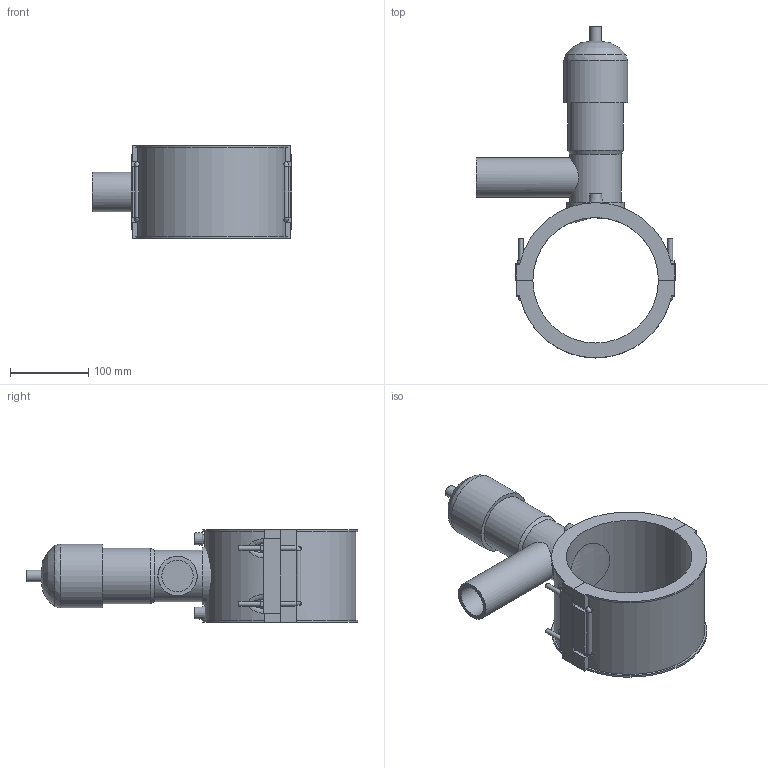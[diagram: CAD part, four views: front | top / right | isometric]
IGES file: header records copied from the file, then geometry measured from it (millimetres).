
Global section: file name: 495404160050.ipt; native system: Autodesk Inventor 2015; preprocessor: unknown; author: KIM; date: 20171106.094300; units: millimetre
Bounding box: 254 x 422.88 x 118 mm (x, y, z)
Volume: 2089397 mm3; surface area: 276893.8 mm2
Topology: 3 solids, 5 shells, 157 faces, 388 edges, 246 vertices
Faces by surface type: plane 93, cylinder 29, revolution 16, bspline 12, cone 7
Full cylindrical faces by diameter (mm): 4 x2, 6 x8, 14.64 x1, 50 x1, 65.88 x1, 70.76 x1, 73.2 x1, 81.333 x1
